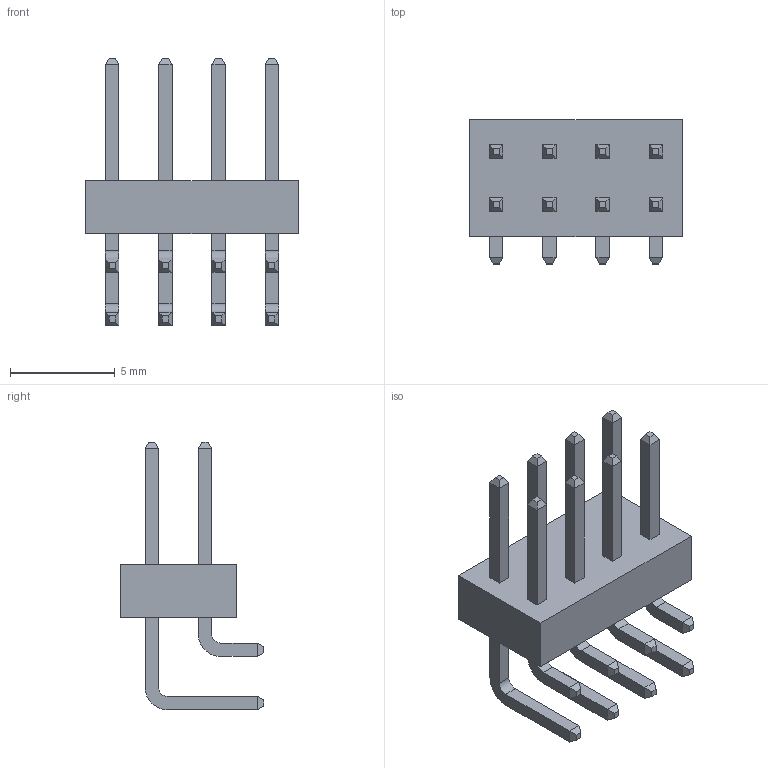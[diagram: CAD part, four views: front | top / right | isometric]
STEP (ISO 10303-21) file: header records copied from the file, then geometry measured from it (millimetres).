
FILE_DESCRIPTION (( 'STEP AP214' ), '1' );
FILE_NAME ( 'HDRRA8W64P254_4X2_1016X254H556P.STEP', '2014-04-11T12:31:22', ( '' ), ( '' ), 'FPX Expert 2013', 'PCB Libraries', '' );
FILE_SCHEMA (( 'AUTOMOTIVE_DESIGN' ));
Length unit declared in the file: millimetre
Products named in the file (1): HDRRA8W64P254_4X2_1016X254H556P
Bounding box: 10.16 x 6.86 x 12.76 mm (x, y, z)
Volume: 183.2 mm3; surface area: 543.5 mm2
Topology: 9 solids, 9 shells, 182 faces, 428 edges, 264 vertices
Faces by surface type: plane 166, cylinder 16
Entity records: 5637 total; most frequent: CARTESIAN_POINT 875, ORIENTED_EDGE 856, DIRECTION 826, EDGE_CURVE 428, VECTOR 396, LINE 396, VERTEX_POINT 264, AXIS2_PLACEMENT_3D 215
